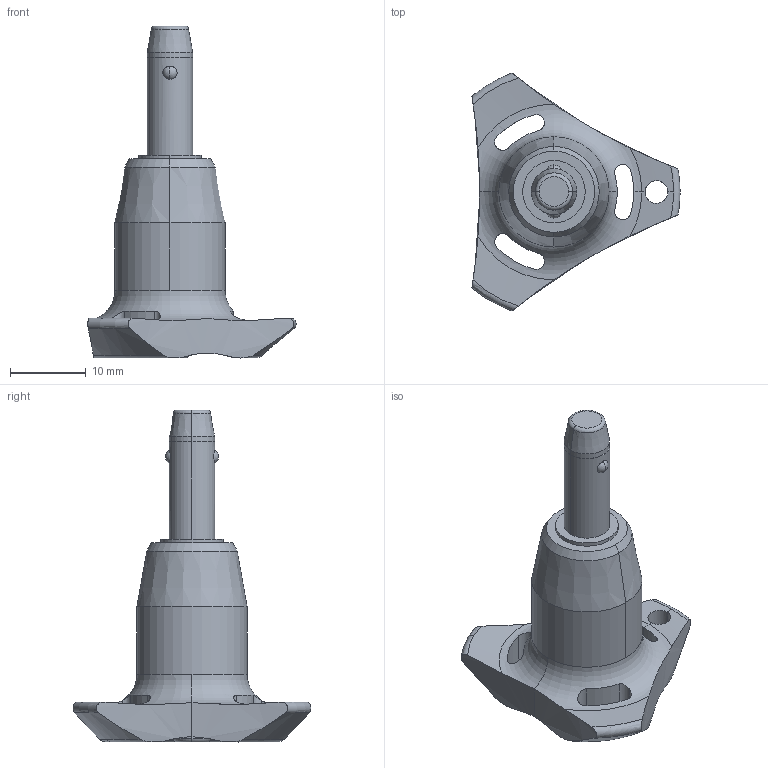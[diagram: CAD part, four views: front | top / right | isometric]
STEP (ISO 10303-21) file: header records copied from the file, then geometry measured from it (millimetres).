
FILE_DESCRIPTION (( 'STEP AP203' ), '1' );
FILE_NAME ('QR1716.M06-010-T.step', '2025-11-13T10:26:42', ( '' ), ( '' ), 'SwSTEP 2.0', 'SolidWorks 2019', '' );
FILE_SCHEMA (( 'CONFIG_CONTROL_DESIGN' ));
Length unit declared in the file: millimetre
Products named in the file (1): QR1716.M06-010-T
Bounding box: 27.4 x 31.31 x 43.7 mm (x, y, z)
Volume: 5248.7 mm3; surface area: 2741.4 mm2
Topology: 1 solids, 1 shells, 69 faces, 189 edges, 121 vertices
Faces by surface type: cylinder 32, cone 14, torus 12, sphere 6, plane 5
Entity records: 2809 total; most frequent: CARTESIAN_POINT 1014, ORIENTED_EDGE 378, DIRECTION 352, EDGE_CURVE 189, AXIS2_PLACEMENT_3D 157, VERTEX_POINT 121, CIRCLE 87, EDGE_LOOP 76
